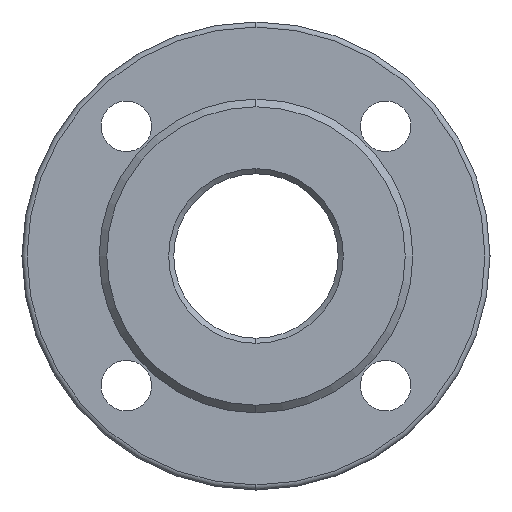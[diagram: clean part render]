
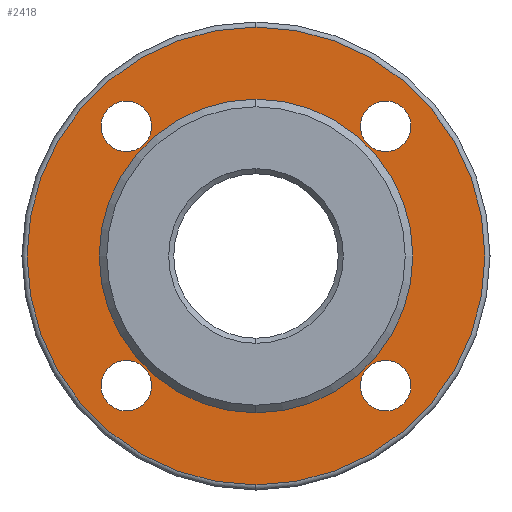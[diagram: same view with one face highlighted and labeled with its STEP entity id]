
A CAD part, left-side view. The second image highlights one B-rep face of the part: STEP entity #2418.
In plain terms, the highlighted planar face has unit normal (-1, 0, 0).
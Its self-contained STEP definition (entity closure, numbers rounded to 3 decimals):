
#10 = DIRECTION ( 'NONE',  ( -1., 0., 0. ) ) ;
#38 = CIRCLE ( 'NONE', #2983, 10. ) ;
#42 = CARTESIAN_POINT ( 'NONE',  ( -247., -51.265, -61.265 ) ) ;
#88 = AXIS2_PLACEMENT_3D ( 'NONE', #2267, #215, #1222 ) ;
#128 = CARTESIAN_POINT ( 'NONE',  ( -247., -51.265, 51.265 ) ) ;
#167 = CARTESIAN_POINT ( 'NONE',  ( -247., -51.265, 61.265 ) ) ;
#201 = AXIS2_PLACEMENT_3D ( 'NONE', #3102, #1302, #796 ) ;
#211 = CARTESIAN_POINT ( 'NONE',  ( -247., 51.265, 61.265 ) ) ;
#215 = DIRECTION ( 'NONE',  ( -1., 0., 0. ) ) ;
#269 = VERTEX_POINT ( 'NONE', #2737 ) ;
#383 = EDGE_CURVE ( 'Defeatured_0_11+Defeatured_0_0+Defeatured_0_0+Defeatured_0_0', #1524, #3131, #2175, .T. ) ;
#408 = DIRECTION ( 'NONE',  ( -1., 0., 0. ) ) ;
#424 = CIRCLE ( 'NONE', #745, 10. ) ;
#478 = CIRCLE ( 'NONE', #2676, 10. ) ;
#493 = DIRECTION ( 'NONE',  ( 0., 0., -1. ) ) ;
#536 = EDGE_CURVE ( 'Defeatured_0_10+Defeatured_0_0+Defeatured_0_0+Defeatured_0_0', #1177, #2907, #38, .T. ) ;
#574 = EDGE_CURVE ( 'Defeatured_0_8+Defeatured_0_0+Defeatured_0_0+Defeatured_0_0', #2568, #1313, #2574, .T. ) ;
#604 = ORIENTED_EDGE ( 'NONE', *, *, #536, .F. ) ;
#609 = CARTESIAN_POINT ( 'NONE',  ( -247., 0., -62. ) ) ;
#621 = VERTEX_POINT ( 'NONE', #3181 ) ;
#700 = DIRECTION ( 'NONE',  ( 0., 0., -1. ) ) ;
#709 = CARTESIAN_POINT ( 'NONE',  ( -247., 0., 90.5 ) ) ;
#739 = EDGE_LOOP ( 'NONE', ( #1217, #2819 ) ) ;
#745 = AXIS2_PLACEMENT_3D ( 'NONE', #1209, #1916, #3262 ) ;
#746 = VERTEX_POINT ( 'NONE', #709 ) ;
#751 = EDGE_LOOP ( 'NONE', ( #825, #996 ) ) ;
#780 = DIRECTION ( 'NONE',  ( 0., 0., -1. ) ) ;
#796 = DIRECTION ( 'NONE',  ( 0., 0., -1. ) ) ;
#825 = ORIENTED_EDGE ( 'NONE', *, *, #574, .F. ) ;
#830 = EDGE_CURVE ( 'Defeatured_0_11+Defeatured_0_0+Defeatured_0_0+Defeatured_0_0', #3131, #1524, #1542, .T. ) ;
#831 = CARTESIAN_POINT ( 'NONE',  ( -247., 0., 0. ) ) ;
#876 = DIRECTION ( 'NONE',  ( 0., 0., -1. ) ) ;
#916 = CARTESIAN_POINT ( 'NONE',  ( -247., 51.265, 51.265 ) ) ;
#950 = AXIS2_PLACEMENT_3D ( 'NONE', #3228, #408, #876 ) ;
#969 = FACE_BOUND ( 'NONE', #2648, .T. ) ;
#975 = ORIENTED_EDGE ( 'NONE', *, *, #2905, .F. ) ;
#996 = ORIENTED_EDGE ( 'NONE', *, *, #2725, .F. ) ;
#1033 = EDGE_LOOP ( 'NONE', ( #2321, #1712 ) ) ;
#1037 = DIRECTION ( 'NONE',  ( 1., 0., 0. ) ) ;
#1114 = AXIS2_PLACEMENT_3D ( 'NONE', #831, #2143, #2654 ) ;
#1157 = DIRECTION ( 'NONE',  ( -1., 0., 0. ) ) ;
#1177 = VERTEX_POINT ( 'NONE', #3257 ) ;
#1184 = DIRECTION ( 'NONE',  ( -1., 0., 0. ) ) ;
#1201 = DIRECTION ( 'NONE',  ( -1., 0., 0. ) ) ;
#1209 = CARTESIAN_POINT ( 'NONE',  ( -247., 51.265, -51.265 ) ) ;
#1215 = CIRCLE ( 'NONE', #88, 90.5 ) ;
#1217 = ORIENTED_EDGE ( 'NONE', *, *, #2589, .F. ) ;
#1222 = DIRECTION ( 'NONE',  ( 0., 0., -1. ) ) ;
#1253 = PLANE ( 'NONE',  #1282 ) ;
#1282 = AXIS2_PLACEMENT_3D ( 'NONE', #1775, #1037, #1539 ) ;
#1302 = DIRECTION ( 'NONE',  ( -1., 0., 0. ) ) ;
#1305 = CARTESIAN_POINT ( 'NONE',  ( -247., -51.265, -51.265 ) ) ;
#1313 = VERTEX_POINT ( 'NONE', #211 ) ;
#1325 = CARTESIAN_POINT ( 'NONE',  ( -247., 0., 62. ) ) ;
#1349 = DIRECTION ( 'NONE',  ( -1., 0., 0. ) ) ;
#1351 = EDGE_LOOP ( 'NONE', ( #2201, #3169 ) ) ;
#1374 = CIRCLE ( 'NONE', #1114, 62. ) ;
#1521 = VERTEX_POINT ( 'NONE', #609 ) ;
#1524 = VERTEX_POINT ( 'NONE', #2089 ) ;
#1539 = DIRECTION ( 'NONE',  ( 0., 0., -1. ) ) ;
#1542 = CIRCLE ( 'NONE', #201, 10. ) ;
#1570 = ORIENTED_EDGE ( 'NONE', *, *, #383, .F. ) ;
#1712 = ORIENTED_EDGE ( 'NONE', *, *, #3101, .F. ) ;
#1713 = DIRECTION ( 'NONE',  ( 0., 0., -1. ) ) ;
#1717 = FACE_BOUND ( 'NONE', #751, .T. ) ;
#1732 = VERTEX_POINT ( 'NONE', #2579 ) ;
#1735 = VERTEX_POINT ( 'NONE', #1325 ) ;
#1775 = CARTESIAN_POINT ( 'NONE',  ( -247., 62., 0. ) ) ;
#1776 = DIRECTION ( 'NONE',  ( 0., 0., 1. ) ) ;
#1788 = DIRECTION ( 'NONE',  ( -1., 0., 0. ) ) ;
#1856 = AXIS2_PLACEMENT_3D ( 'NONE', #128, #1157, #2959 ) ;
#1911 = AXIS2_PLACEMENT_3D ( 'NONE', #3285, #1201, #700 ) ;
#1916 = DIRECTION ( 'NONE',  ( -1., 0., 0. ) ) ;
#1964 = ORIENTED_EDGE ( 'NONE', *, *, #830, .F. ) ;
#1971 = FACE_BOUND ( 'NONE', #739, .T. ) ;
#2006 = DIRECTION ( 'NONE',  ( -1., 0., 0. ) ) ;
#2052 = EDGE_CURVE ( 'Defeatured_0_4+Defeatured_0_0+Defeatured_0_0+Defeatured_0_0', #1735, #1521, #2671, .T. ) ;
#2062 = EDGE_CURVE ( 'Defeatured_0_0+Defeatured_0_13+Defeatured_0_13+Defeatured_0_13', #269, #746, #1215, .T. ) ;
#2089 = CARTESIAN_POINT ( 'NONE',  ( -247., -51.265, 41.265 ) ) ;
#2131 = AXIS2_PLACEMENT_3D ( 'NONE', #2769, #2006, #1776 ) ;
#2143 = DIRECTION ( 'NONE',  ( -1., 0., 0. ) ) ;
#2175 = CIRCLE ( 'NONE', #1856, 10. ) ;
#2201 = ORIENTED_EDGE ( 'NONE', *, *, #2062, .T. ) ;
#2267 = CARTESIAN_POINT ( 'NONE',  ( -247., 0., 0. ) ) ;
#2294 = CARTESIAN_POINT ( 'NONE',  ( -247., -51.265, -51.265 ) ) ;
#2321 = ORIENTED_EDGE ( 'NONE', *, *, #2443, .F. ) ;
#2359 = EDGE_CURVE ( 'Defeatured_0_0+Defeatured_0_13+Defeatured_0_13+Defeatured_0_13', #746, #269, #3053, .T. ) ;
#2406 = CIRCLE ( 'NONE', #2515, 10. ) ;
#2418 = ADVANCED_FACE ( 'Defeatured_0_0', ( #2753, #1971, #1717, #3004, #3270, #969 ), #1253, .F. ) ;
#2443 = EDGE_CURVE ( 'Defeatured_0_9+Defeatured_0_0+Defeatured_0_0+Defeatured_0_0', #621, #1732, #478, .T. ) ;
#2515 = AXIS2_PLACEMENT_3D ( 'NONE', #916, #1184, #1713 ) ;
#2568 = VERTEX_POINT ( 'NONE', #3154 ) ;
#2574 = CIRCLE ( 'NONE', #950, 10. ) ;
#2577 = CIRCLE ( 'NONE', #3113, 10. ) ;
#2579 = CARTESIAN_POINT ( 'NONE',  ( -247., 51.265, -41.265 ) ) ;
#2589 = EDGE_CURVE ( 'Defeatured_0_4+Defeatured_0_0+Defeatured_0_0+Defeatured_0_0', #1521, #1735, #1374, .T. ) ;
#2648 = EDGE_LOOP ( 'NONE', ( #1570, #1964 ) ) ;
#2654 = DIRECTION ( 'NONE',  ( 0., 0., 1. ) ) ;
#2671 = CIRCLE ( 'NONE', #2131, 62. ) ;
#2676 = AXIS2_PLACEMENT_3D ( 'NONE', #3303, #1788, #493 ) ;
#2725 = EDGE_CURVE ( 'Defeatured_0_8+Defeatured_0_0+Defeatured_0_0+Defeatured_0_0', #1313, #2568, #2406, .T. ) ;
#2737 = CARTESIAN_POINT ( 'NONE',  ( -247., 0., -90.5 ) ) ;
#2753 = FACE_OUTER_BOUND ( 'NONE', #1351, .T. ) ;
#2769 = CARTESIAN_POINT ( 'NONE',  ( -247., 0., 0. ) ) ;
#2819 = ORIENTED_EDGE ( 'NONE', *, *, #2052, .F. ) ;
#2866 = DIRECTION ( 'NONE',  ( 0., 0., -1. ) ) ;
#2905 = EDGE_CURVE ( 'Defeatured_0_10+Defeatured_0_0+Defeatured_0_0+Defeatured_0_0', #2907, #1177, #2577, .T. ) ;
#2907 = VERTEX_POINT ( 'NONE', #42 ) ;
#2959 = DIRECTION ( 'NONE',  ( 0., 0., -1. ) ) ;
#2964 = EDGE_LOOP ( 'NONE', ( #975, #604 ) ) ;
#2983 = AXIS2_PLACEMENT_3D ( 'NONE', #1305, #1349, #2866 ) ;
#3004 = FACE_BOUND ( 'NONE', #1033, .T. ) ;
#3053 = CIRCLE ( 'NONE', #1911, 90.5 ) ;
#3101 = EDGE_CURVE ( 'Defeatured_0_9+Defeatured_0_0+Defeatured_0_0+Defeatured_0_0', #1732, #621, #424, .T. ) ;
#3102 = CARTESIAN_POINT ( 'NONE',  ( -247., -51.265, 51.265 ) ) ;
#3113 = AXIS2_PLACEMENT_3D ( 'NONE', #2294, #10, #780 ) ;
#3131 = VERTEX_POINT ( 'NONE', #167 ) ;
#3154 = CARTESIAN_POINT ( 'NONE',  ( -247., 51.265, 41.265 ) ) ;
#3169 = ORIENTED_EDGE ( 'NONE', *, *, #2359, .T. ) ;
#3181 = CARTESIAN_POINT ( 'NONE',  ( -247., 51.265, -61.265 ) ) ;
#3228 = CARTESIAN_POINT ( 'NONE',  ( -247., 51.265, 51.265 ) ) ;
#3257 = CARTESIAN_POINT ( 'NONE',  ( -247., -51.265, -41.265 ) ) ;
#3262 = DIRECTION ( 'NONE',  ( 0., 0., -1. ) ) ;
#3270 = FACE_BOUND ( 'NONE', #2964, .T. ) ;
#3285 = CARTESIAN_POINT ( 'NONE',  ( -247., 0., 0. ) ) ;
#3303 = CARTESIAN_POINT ( 'NONE',  ( -247., 51.265, -51.265 ) ) ;
